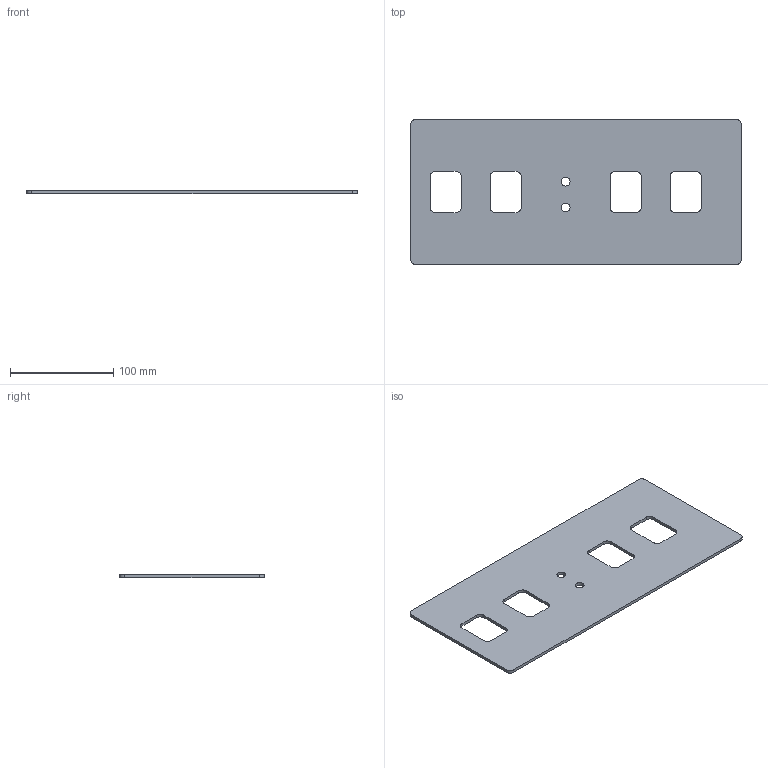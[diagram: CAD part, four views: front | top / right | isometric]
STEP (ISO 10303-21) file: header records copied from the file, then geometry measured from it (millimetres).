
FILE_DESCRIPTION(/* description */ (''),/* implementation_level */ '2;1');
FILE_NAME(/* name */ 'C:\Users\felldings\Documents\Inventor\fabacademy-final\front_plate.step',/* time_stamp */ '2018-06-09T01:21:29+02:00',/* author */ ('felldings'),/* organization */ (''),/* preprocessor_version */ 'ST-DEVELOPER v17',/* originating_system */ 'Autodesk Inventor 2019',/* authorisation */ '');
FILE_SCHEMA (('AUTOMOTIVE_DESIGN { 1 0 10303 214 3 1 1 }'));
Length unit declared in the file: millimetre
Products named in the file (1): front_plate
Bounding box: 320 x 140 x 3 mm (x, y, z)
Volume: 119852.7 mm3; surface area: 84373.2 mm2
Topology: 1 solids, 1 shells, 44 faces, 128 edges, 86 vertices
Faces by surface type: cylinder 22, plane 22
Full cylindrical faces by diameter (mm): 8.5 x2
Entity records: 1537 total; most frequent: DIRECTION 264, CARTESIAN_POINT 259, ORIENTED_EDGE 256, EDGE_CURVE 128, AXIS2_PLACEMENT_3D 91, VERTEX_POINT 86, LINE 82, VECTOR 82
